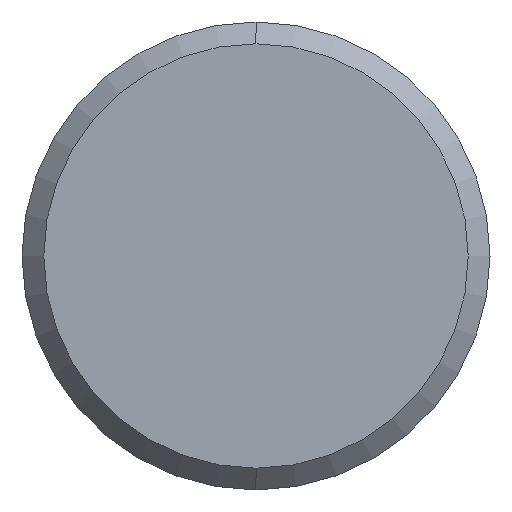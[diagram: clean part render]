
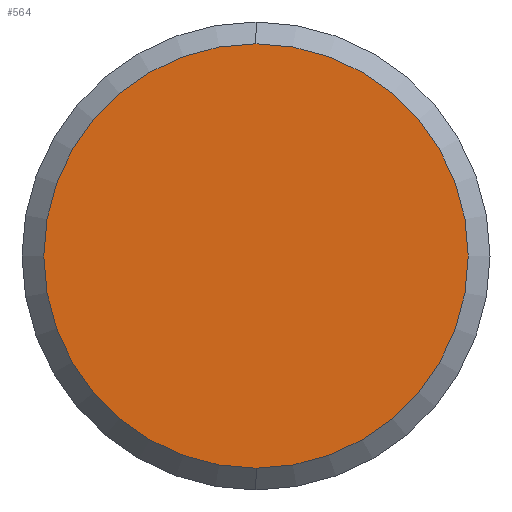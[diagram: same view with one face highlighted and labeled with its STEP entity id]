
A CAD part, left-side view. The second image highlights one B-rep face of the part: STEP entity #564.
In plain terms, the highlighted planar face has unit normal (-1, 0, 0).
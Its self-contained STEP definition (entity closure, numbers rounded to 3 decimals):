
#6 = AXIS2_PLACEMENT_3D ( 'NONE', #113, #260, #304 ) ;
#16 = CARTESIAN_POINT ( 'NONE',  ( 0., 0., 0. ) ) ;
#17 = EDGE_CURVE ( 'NONE', #494, #44, #174, .T. ) ;
#44 = VERTEX_POINT ( 'NONE', #444 ) ;
#75 = CIRCLE ( 'NONE', #6, 19.5 ) ;
#113 = CARTESIAN_POINT ( 'NONE',  ( 0., 0., 0. ) ) ;
#174 = CIRCLE ( 'NONE', #446, 19.5 ) ;
#199 = DIRECTION ( 'NONE',  ( 1., 0., 0. ) ) ;
#260 = DIRECTION ( 'NONE',  ( -1., 0., 0. ) ) ;
#304 = DIRECTION ( 'NONE',  ( 0., 0., -1. ) ) ;
#306 = EDGE_LOOP ( 'NONE', ( #529, #567 ) ) ;
#377 = DIRECTION ( 'NONE',  ( 0., 0., -1. ) ) ;
#385 = EDGE_CURVE ( 'NONE', #44, #494, #75, .T. ) ;
#431 = PLANE ( 'NONE',  #496 ) ;
#444 = CARTESIAN_POINT ( 'NONE',  ( 0., 0., 19.5 ) ) ;
#446 = AXIS2_PLACEMENT_3D ( 'NONE', #533, #495, #521 ) ;
#494 = VERTEX_POINT ( 'NONE', #574 ) ;
#495 = DIRECTION ( 'NONE',  ( -1., 0., 0. ) ) ;
#496 = AXIS2_PLACEMENT_3D ( 'NONE', #16, #199, #377 ) ;
#516 = FACE_OUTER_BOUND ( 'NONE', #306, .T. ) ;
#521 = DIRECTION ( 'NONE',  ( 0., 0., -1. ) ) ;
#529 = ORIENTED_EDGE ( 'NONE', *, *, #17, .T. ) ;
#533 = CARTESIAN_POINT ( 'NONE',  ( 0., 0., 0. ) ) ;
#564 = ADVANCED_FACE ( 'NONE', ( #516 ), #431, .F. ) ;
#567 = ORIENTED_EDGE ( 'NONE', *, *, #385, .T. ) ;
#574 = CARTESIAN_POINT ( 'NONE',  ( 0., 0., -19.5 ) ) ;
